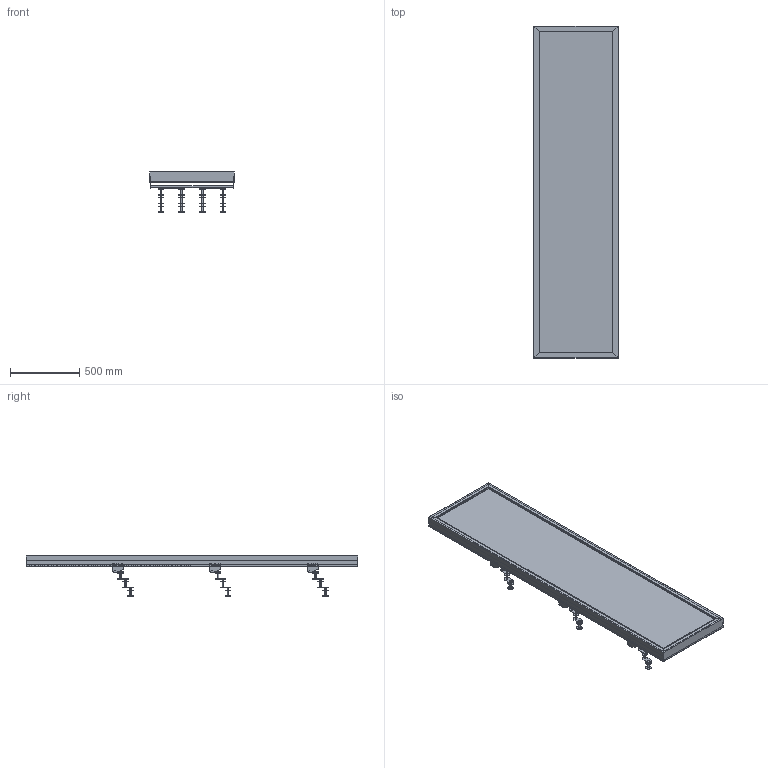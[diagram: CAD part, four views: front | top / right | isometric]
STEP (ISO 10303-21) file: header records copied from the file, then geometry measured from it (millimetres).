
FILE_DESCRIPTION (( 'STEP AP203' ), '1' );
FILE_NAME ('Padel Racket Display 610mm - 3 Tier Stepped Holder.STEP', '2026-03-30T11:06:23', ( '' ), ( '' ), 'SwSTEP 2.0', 'SolidWorks 2025', '' );
FILE_SCHEMA (( 'CONFIG_CONTROL_DESIGN' ));
Length unit declared in the file: millimetre
Products named in the file (7): 0001-31-103.STEP; 0001-31-SA23 - 610W Rear Support Bar.STEP; 0001-31-102.STEP; 0001-31-GA01 - 610W Slotted Upright; Padel Racket Display 610mm - 3 Tier Stepped Holder; 0001-31-SA23 - 610W Rear Support Bar_Assem6; 370-01-GA01
Assembly tree (14 placements, depth 4):
  Padel Racket Display 610mm - 3 Tier Stepped Holder
    0001-31-GA01 - 610W Slotted Upright
    0001-31-SA23 - 610W Rear Support Bar_Assem6  x3
      0001-31-SA23 - 610W Rear Support Bar.STEP
        0001-31-102.STEP
        0001-31-103.STEP  x2
    370-01-GA01  x6
Bounding box: 609.75 x 2400 x 290.15 mm (x, y, z)
Volume: 7435199.8 mm3; surface area: 8738754.5 mm2
Topology: 129 solids, 129 shells, 1470 faces, 3810 edges, 2524 vertices
Faces by surface type: plane 876, cylinder 594
Entity records: 20904 total; most frequent: CARTESIAN_POINT 3841, ORIENTED_EDGE 3554, DIRECTION 3055, EDGE_CURVE 1777, LINE 1495, VECTOR 1495, VERTEX_POINT 1182, AXIS2_PLACEMENT_3D 780
